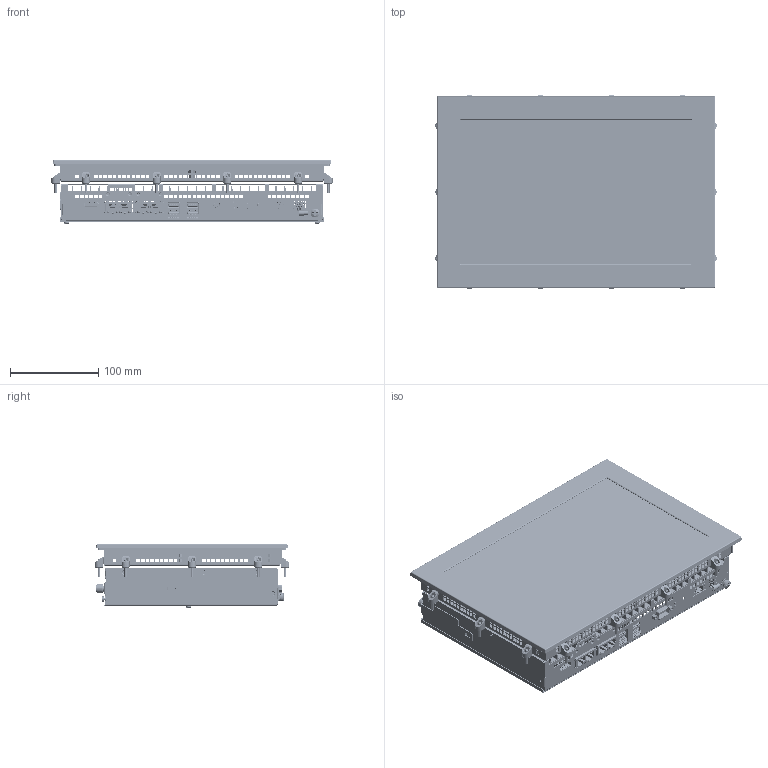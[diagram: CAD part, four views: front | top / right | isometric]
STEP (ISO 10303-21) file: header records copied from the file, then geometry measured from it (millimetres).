
FILE_DESCRIPTION (( 'STEP AP214' ), '1' );
FILE_NAME ('6300P-SW2-12FAAAxxA.step', '2025-02-05T16:53:40', ( '' ), ( '' ), 'SwSTEP 2.0', 'SolidWorks 2023', '' );
FILE_SCHEMA (( 'AUTOMOTIVE_DESIGN' ));
Length unit declared in the file: millimetre
Products named in the file (54): 62020045; 7397_402_STEP; 51524103; 7359_081_STEP; 21410056; 52500005; 14300048; 55455183; 62920009; 21410087; Copia di DUPLOCOLL CPT500F Bi-Adhesive^56600774; 21502112; 50342008_1^GRUPPO FRONTALE 121W ALU QT ATEX; 20900005; 21900123; GRUPPO FRONTALE 121W ALU QT ATEX; 21405048; 48000093; 21614000; 59303309; 59703106; 65720078; GRUPPO VITE TERRA M5; foot2593_480000; 54900001; 21509049; 56637006_Default<A macchina>; 52882745; 62920012; 50824006; 50342008_2^GRUPPO FRONTALE 121W ALU QT ATEX; 58703009_Default<A macchina>; 55455163^GRUPPO FRONTALE 121W ALU QT ATEX; 6300P-SW2-12FAAAxxA; 56600774; 58503019; 21502089; 61820001; 69120013; 23330038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
Assembly tree (121 placements, depth 4):
  6300P-SW2-12FAAAxxA
    GRUPPO FRONTALE 121W ALU QT ATEX
      56600774
        56637006_Default<A macchina>
        55455183
        Copia di DUPLOCOLL CPT500F Bi-Adhesive^56600774  x2
        Copia (2) di DUPLOCOLL CPT500F Bi-Adhesive^56600774  x2
      48000093
      21900123
      59303309
      51524103  x8
      50342008_1^GRUPPO FRONTALE 121W ALU QT ATEX  x2
      50342008_2^GRUPPO FRONTALE 121W ALU QT ATEX  x2
      14300048
      50824006
      40141255
      65720029  x14
      69111028  x8
      55455163^GRUPPO FRONTALE 121W ALU QT ATEX  x4
      69120013  x4
    59303372
    D02202201_SL STEP
      52500005
        52536209
      7359_081_STEP
        23330039
        23330038
        21410087  x2
        21410056  x2
        21405048
        foot2594_480000
        21509049
        foot2593_480000
      65720029  x5
      7397_402_STEP
        21502089
        21502112
      59703106
      58503019
      51703074_Default<A macchina>
      69111027  x8
      GRUPPO VITE TERRA M5
        65720078
        62920012
        62920009
        62920002
        20900005
      52882745
      52882258
      21614000  x2
      14300048  x3
      58703009_Default<A macchina>
    54900002  x14
      54900001
      61820001
      62020045
Bounding box: 318 x 220 x 72.59 mm (x, y, z)
Volume: 783078.7 mm3; surface area: 1194294.6 mm2
Topology: 327 solids, 330 shells, 38525 faces, 106844 edges, 68625 vertices
Faces by surface type: plane 27479, cylinder 7926, bspline 1840, cone 794, torus 274, sphere 212
Entity records: 930496 total; most frequent: CARTESIAN_POINT 207914, ORIENTED_EDGE 146148, DIRECTION 125662, EDGE_CURVE 73085, VECTOR 55940, LINE 55940, VERTEX_POINT 47089, AXIS2_PLACEMENT_3D 34861
